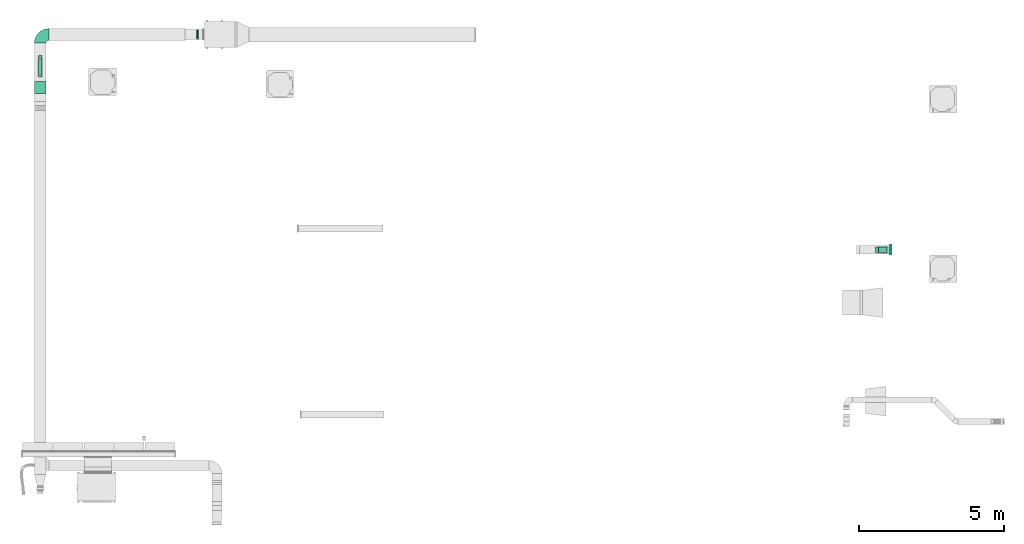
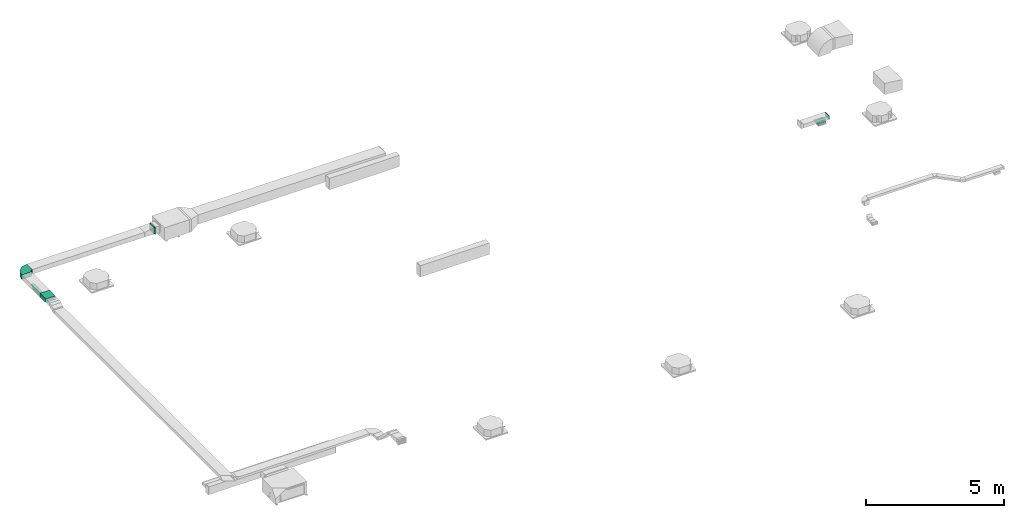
# One storey, part 6 of 15: 5 flow fittings, 3 flow segments.
"""IFC2X3 building model written with IfcOpenShell, lengths in millimetres."""

from ifc_helpers import new_model, entity, si_unit, converted_unit, derived_unit, direction, frame, frame_2d, origin, origin_2d_with_axis, place, context, subcontext, project, spatial, polyline, circle_curve, parameter, trimmed, segment, composite_curve, rectangle, outline, extrude, source, transform, mapped, material, type_object, type_shapes, element, save


model = new_model("IFC2X3")

# Units and contexts
model_context = context("Model", 3, precision=0.01, world=origin(), true_north=direction((6.123233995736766e-17, 1.0)))
body_context = subcontext(model_context, "Body", "Model", "MODEL_VIEW")
ifc_project = project(units=[si_unit("LENGTHUNIT", "METRE", prefix="MILLI"), converted_unit("PLANEANGLEUNIT", "DEGREE", entity("IfcPlaneAngleMeasure", 0.017453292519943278), si_unit("PLANEANGLEUNIT", "RADIAN"), dimensions=[0, 0, 0, 0, 0, 0, 0]), si_unit("AREAUNIT", "SQUARE_METRE"), derived_unit("THERMALTRANSMITTANCEUNIT", [(si_unit("MASSUNIT", "GRAM", prefix="KILO"), 1), (si_unit("THERMODYNAMICTEMPERATUREUNIT", "KELVIN"), -1), (si_unit("TIMEUNIT", "SECOND"), -3)])], contexts=[model_context])

# Site, building, storey
site_placement = place(None, origin())
site = spatial("IfcSite", under=ifc_project, at=site_placement, Name="Default", CompositionType="ELEMENT")
building_placement = place(site_placement, origin())
building = spatial("IfcBuilding", under=site, at=building_placement, Name="Praça Pedro II, 1301 - Centro (Sul), Teresina - PI, 64001-100", CompositionType="ELEMENT")
storey_placement = place(building_placement, frame((0.0, 0.0, 3020.0)))
storey = spatial("IfcBuildingStorey", under=building, at=storey_placement, Name="1PAV", CompositionType="ELEMENT", Elevation=3020.0)

# Flow segments
duct_segment_type = type_object("IfcDuctSegmentType", Name="Duto retangular:Raios cotovelos / torneiras", PredefinedType="NOTDEFINED")
flow_segment_1_placement = place(storey_placement, origin())
element("IfcFlowSegment", 1, at=flow_segment_1_placement, inside=storey, type_object=duct_segment_type, Name="Duto retangular:Raios cotovelos / torneiras", ObjectType="Duto retangular:Raios cotovelos / torneiras", context=body_context, shape_type="SweptSolid", body=[
    extrude(rectangle(XDim=624.9999999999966, YDim=124.99999999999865, at=origin_2d_with_axis()), frame((6395.350747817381, -52705.941631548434, 1375.0), z_axis=(0.0, 0.0, 1.0), x_axis=(0.0, -1.0, 0.0)), (0.0, 0.0, 1.0), 50.39720948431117),
])
flow_segment_2_placement = place(storey_placement, origin())
element("IfcFlowSegment", 2, at=flow_segment_2_placement, inside=storey, type_object=duct_segment_type, Name="Duto retangular:Raios cotovelos / torneiras", ObjectType="Duto retangular:Raios cotovelos / torneiras", context=body_context, shape_type="SweptSolid", body=[
    extrude(rectangle(XDim=200.0000000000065, YDim=300.0000000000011, at=origin_2d_with_axis()), frame((35439.07066891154, -58985.15114948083, 2500.0), z_axis=(0.0, 0.0, 1.0), x_axis=(0.0, 1.0, 0.0)), (0.0, 0.0, 1.0), 64.99999999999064),
])
flow_segment_3_placement = place(storey_placement, origin())
element("IfcFlowSegment", 3, at=flow_segment_3_placement, inside=storey, type_object=duct_segment_type, Name="Duto retangular:Raios cotovelos / torneiras", ObjectType="Duto retangular:Raios cotovelos / torneiras", context=body_context, shape_type="SweptSolid", body=[
    extrude(rectangle(XDim=59.99999999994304, YDim=333.0000000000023, at=frame_2d((0.0, -4.334310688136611e-12), x_axis=(1.0, 0.0))), frame((11814.412533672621, -51563.1726578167, 1480.8972094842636)), (0.0, 0.0, 1.0), 289.00000000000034),
])

# Flow fittings
ifc_material = material(Name="<Unnamed>")
duct_fitting_type_1 = type_object("IfcDuctFittingType", Name="M_Tampa retangular:Padrão", PredefinedType="NOTDEFINED", material=ifc_material)
shared_shape_1 = source(origin(), body_context, "Body", "SweptSolid", [
    extrude(rectangle(XDim=24.999999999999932, YDim=300.0, at=frame_2d((-3.552713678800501e-15, 0.0), x_axis=(1.0, 0.0))), frame((12.500000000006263, 0.0, -75.0)), (0.0, 0.0, 1.0), 150.0),
])
type_shapes(duct_fitting_type_1, [shared_shape_1])
flow_fitting_1_placement = place(storey_placement, frame((35699.07066891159, -58985.15114948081, 2740.0)))
element("IfcFlowFitting", 4, at=flow_fitting_1_placement, inside=storey, type_object=duct_fitting_type_1, material=ifc_material, Name="M_Tampa retangular:Padrão", ObjectType="M_Tampa retangular:Padrão", context=body_context, shape_type="MappedRepresentation", body=[
    mapped(shared_shape_1, transform((0.0, 0.0, 0.0), scale=1.0)),
])
duct_fitting_type_2 = type_object("IfcDuctFittingType", Name="M_Rectangular Tap - Beveled:Standard", PredefinedType="NOTDEFINED", material=ifc_material)
shared_shape_2 = source(origin(), body_context, "Body", "SweptSolid", [
    extrude(outline(polyline([(-220.0, -62.43840000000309), (80.0, -62.43840000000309), (180.0, 37.56159999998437), (180.0, 43.657600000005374), (-220.0, 43.6576000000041), (-220.0, -62.43840000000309)])), frame((37.56160000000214, 70.0, -100.0), z_axis=(0.0, 0.0, 1.0), x_axis=(0.0, 1.0, 0.0)), (0.0, 0.0, 1.0), 199.99999999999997),
])
type_shapes(duct_fitting_type_2, [shared_shape_2])
flow_fitting_2_placement = place(storey_placement, frame((35439.07066891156, -58985.15114948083, 2665.0), z_axis=(0.0, 1.0, 0.0), x_axis=(0.0, 0.0, -1.0)))
element("IfcFlowFitting", 5, at=flow_fitting_2_placement, inside=storey, type_object=duct_fitting_type_2, material=ifc_material, Name="M_Rectangular Tap - Beveled:Standard", ObjectType="M_Rectangular Tap - Beveled:Standard", context=body_context, shape_type="MappedRepresentation", body=[
    mapped(shared_shape_2, transform((0.0, 0.0, 0.0), scale=1.0)),
])
duct_fitting_type_3 = type_object("IfcDuctFittingType", Name="M_Rectangular Tap - Beveled:Standard", PredefinedType="NOTDEFINED", material=ifc_material)
shared_shape_3 = source(origin(), body_context, "Body", "SweptSolid", [
    extrude(outline(polyline([(-62.43840000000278, -415.0), (43.657600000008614, -415.0), (43.65760000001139, 310.0), (37.5615999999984, 310.0), (-62.4384000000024, 210.0), (-62.43840000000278, -415.0)])), frame((37.56160000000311, -102.50000000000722, -62.49999999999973), z_axis=(0.0, 0.0, 1.0), x_axis=(-1.0, 0.0, 0.0)), (0.0, 0.0, 1.0), 124.99999999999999),
])
type_shapes(duct_fitting_type_3, [shared_shape_3])
flow_fitting_3_placement = place(storey_placement, frame((6395.350747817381, -52705.94163154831, 1525.397209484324), z_axis=(-1.0, 0.0, 0.0), x_axis=(0.0, 0.0, -1.0)))
element("IfcFlowFitting", 6, at=flow_fitting_3_placement, inside=storey, type_object=duct_fitting_type_3, material=ifc_material, Name="M_Rectangular Tap - Beveled:Standard", ObjectType="M_Rectangular Tap - Beveled:Standard", context=body_context, shape_type="MappedRepresentation", body=[
    mapped(shared_shape_3, transform((0.0, 0.0, 0.0), scale=1.0)),
])
duct_fitting_type_4 = type_object("IfcDuctFittingType", Name="M_Rectangular Transition - L:400 mm (L)", PredefinedType="NOTDEFINED", material=ifc_material)
shared_shape_4 = source(origin(), body_context, "Body", "SweptSolid", [
    extrude(outline(polyline([(-194.93214423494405, -87.3296006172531), (205.84834431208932, -87.3296006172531), (193.37268708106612, 112.28091507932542), (-204.28888715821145, 62.3782861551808), (-194.93214423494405, -87.3296006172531)])), frame((200.0, -200.0, 0.0), z_axis=(0.0, 1.0, 0.0), x_axis=(0.9980525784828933, 0.0, 0.06237828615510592)), (0.0, 0.0, 1.0), 399.9999999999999),
])
type_shapes(duct_fitting_type_4, [shared_shape_4])
flow_fitting_4_placement = place(storey_placement, frame((6395.350747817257, -53589.45898750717, 1625.3972094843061), z_axis=(0.0, 0.0, 1.0), x_axis=(0.0, 1.0, 0.0)))
element("IfcFlowFitting", 7, at=flow_fitting_4_placement, inside=storey, type_object=duct_fitting_type_4, material=ifc_material, Name="M_Rectangular Transition - L:400 mm (L)", ObjectType="M_Rectangular Transition - L:400 mm (L)", context=body_context, shape_type="MappedRepresentation", body=[
    mapped(shared_shape_4, transform((0.0, 0.0, 0.0), scale=1.0)),
])
duct_fitting_type_5 = type_object("IfcDuctFittingType", Name="BTS vanes:1 Splitter Vanes", PredefinedType="NOTDEFINED", material=ifc_material)
shared_shape_5 = source(origin(), body_context, "Body", "SweptSolid", [
    extrude(outline(composite_curve([segment(polyline([(-350.0, -150.0), (50.0, -150.0)]), True, "CONTINUOUS"), segment(trimmed(circle_curve(frame_2d((150.0, -150.0), x_axis=(0.0, 1.0)), 99.99999999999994), [parameter(0.0)], [parameter(90.00000000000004)], True, "PARAMETER"), False, "CONTINUOUS"), segment(polyline([(150.0, -50.0), (150.0, 350.0)]), True, "CONTINUOUS"), segment(trimmed(circle_curve(frame_2d((150.0, -150.0), x_axis=(0.0, 1.0)), 499.99999999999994), [parameter(0.0)], [parameter(90.00000000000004)], True, "PARAMETER"), True, "CONTINUOUS")], self_intersect=False)), frame((-150.0, 150.0, -100.0), z_axis=(0.0, 0.0, 1.0), x_axis=(-1.0, 0.0, 0.0)), (0.0, 0.0, 1.0), 200.0),
    extrude(outline(composite_curve([segment(polyline([(-77.6315789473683, -59.21052631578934), (-40.789473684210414, -59.21052631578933)]), True, "CONTINUOUS"), segment(trimmed(circle_curve(frame_2d((59.210526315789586, -59.21052631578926), x_axis=(0.0, 1.0)), 100.0), [parameter(0.0)], [parameter(90.00000000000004)], True, "PARAMETER"), False, "CONTINUOUS"), segment(polyline([(59.2105263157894, 40.78947368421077), (59.21052631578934, 77.63157894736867)]), True, "CONTINUOUS"), segment(trimmed(circle_curve(frame_2d((59.210526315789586, -59.21052631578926), x_axis=(0.0, 1.0)), 136.8421052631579), [parameter(0.0)], [parameter(89.99999999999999)], True, "PARAMETER"), True, "CONTINUOUS")], self_intersect=False)), frame((-240.78947368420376, 240.78947368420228, -100.0), z_axis=(0.0, 0.0, 1.0), x_axis=(-1.0, 0.0, 0.0)), (0.0, 0.0, 1.0), 200.0),
])
type_shapes(duct_fitting_type_5, [shared_shape_5])
flow_fitting_5_placement = place(storey_placement, frame((6395.350747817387, -51563.17265781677, 1625.397209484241), z_axis=(0.0, 0.0, 1.0), x_axis=(-1.0, 0.0, 0.0)))
element("IfcFlowFitting", 8, at=flow_fitting_5_placement, inside=storey, type_object=duct_fitting_type_5, material=ifc_material, Name="BTS vanes:1 Splitter Vanes", ObjectType="BTS vanes:1 Splitter Vanes", context=body_context, shape_type="MappedRepresentation", body=[
    mapped(shared_shape_5, transform((0.0, 0.0, 0.0), scale=1.0)),
])

save(model, "model.ifc")
